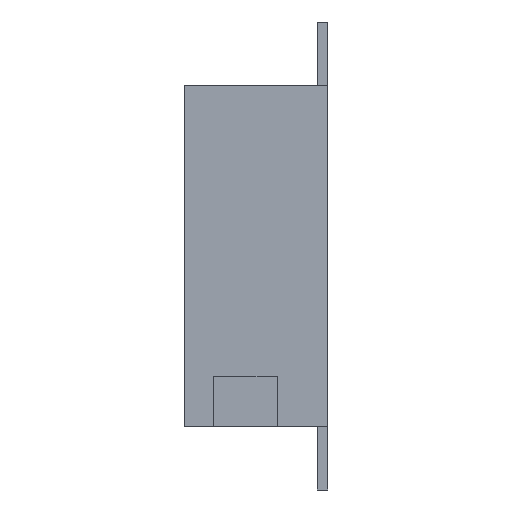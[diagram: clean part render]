
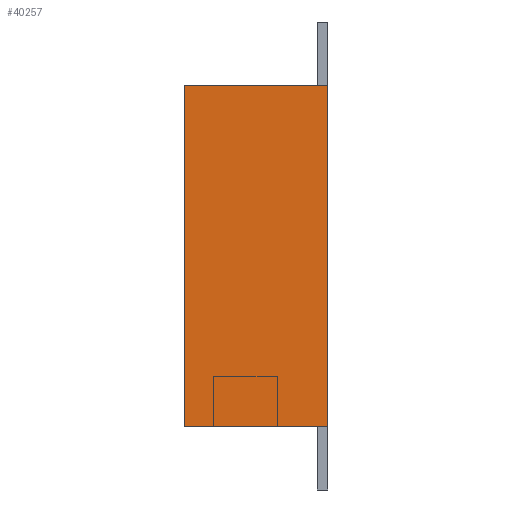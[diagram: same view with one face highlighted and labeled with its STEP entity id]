
A CAD part, left-side view. The second image highlights one B-rep face of the part: STEP entity #40257.
In plain terms, the highlighted planar face has unit normal (-1, 0, 0).
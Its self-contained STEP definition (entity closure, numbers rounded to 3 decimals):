
#101 = DIRECTION ( 'NONE',  ( 1., 0., 0. ) ) ;
#2517 = VERTEX_POINT ( 'NONE', #24627 ) ;
#3237 = ORIENTED_EDGE ( 'NONE', *, *, #26303, .F. ) ;
#3905 = CARTESIAN_POINT ( 'NONE',  ( -2.153, -1.96, 4.05 ) ) ;
#4655 = CARTESIAN_POINT ( 'NONE',  ( -2.153, -1.96, 4.05 ) ) ;
#5503 = DIRECTION ( 'NONE',  ( 0., 0., -1. ) ) ;
#6699 = VECTOR ( 'NONE', #14443, 1000. ) ;
#8479 = VECTOR ( 'NONE', #15051, 1000. ) ;
#8986 = VERTEX_POINT ( 'NONE', #37083 ) ;
#11104 = VERTEX_POINT ( 'NONE', #3905 ) ;
#13579 = PLANE ( 'NONE',  #18316 ) ;
#14443 = DIRECTION ( 'NONE',  ( 0., -1., 0. ) ) ;
#15051 = DIRECTION ( 'NONE',  ( 0., 0., -1. ) ) ;
#15402 = EDGE_CURVE ( 'NONE', #37853, #2517, #17301, .T. ) ;
#15615 = EDGE_CURVE ( 'NONE', #2517, #8986, #35725, .T. ) ;
#16846 = CARTESIAN_POINT ( 'NONE',  ( -2.153, 1.44, 4.05 ) ) ;
#17301 = LINE ( 'NONE', #16846, #24810 ) ;
#18316 = AXIS2_PLACEMENT_3D ( 'NONE', #32016, #101, #39329 ) ;
#21927 = LINE ( 'NONE', #4655, #8479 ) ;
#22921 = ORIENTED_EDGE ( 'NONE', *, *, #15402, .T. ) ;
#23917 = EDGE_CURVE ( 'NONE', #11104, #8986, #21927, .T. ) ;
#24479 = VECTOR ( 'NONE', #24679, 1000. ) ;
#24627 = CARTESIAN_POINT ( 'NONE',  ( -2.153, 1.44, -4.05 ) ) ;
#24679 = DIRECTION ( 'NONE',  ( 0., -1., 0. ) ) ;
#24810 = VECTOR ( 'NONE', #5503, 1000. ) ;
#24900 = CARTESIAN_POINT ( 'NONE',  ( -2.153, 1.44, 4.05 ) ) ;
#26303 = EDGE_CURVE ( 'NONE', #37853, #11104, #31307, .T. ) ;
#27066 = CARTESIAN_POINT ( 'NONE',  ( -2.153, 1.44, 4.05 ) ) ;
#27120 = ORIENTED_EDGE ( 'NONE', *, *, #15615, .T. ) ;
#31307 = LINE ( 'NONE', #24900, #24479 ) ;
#31550 = FACE_OUTER_BOUND ( 'NONE', #42860, .T. ) ;
#32016 = CARTESIAN_POINT ( 'NONE',  ( -2.153, 1.44, 4.05 ) ) ;
#35704 = ORIENTED_EDGE ( 'NONE', *, *, #23917, .F. ) ;
#35725 = LINE ( 'NONE', #39961, #6699 ) ;
#37083 = CARTESIAN_POINT ( 'NONE',  ( -2.153, -1.96, -4.05 ) ) ;
#37853 = VERTEX_POINT ( 'NONE', #27066 ) ;
#39329 = DIRECTION ( 'NONE',  ( 0., 1., 0. ) ) ;
#39961 = CARTESIAN_POINT ( 'NONE',  ( -2.153, 1.44, -4.05 ) ) ;
#40257 = ADVANCED_FACE ( 'NONE', ( #31550 ), #13579, .F. ) ;
#42860 = EDGE_LOOP ( 'NONE', ( #27120, #35704, #3237, #22921 ) ) ;
